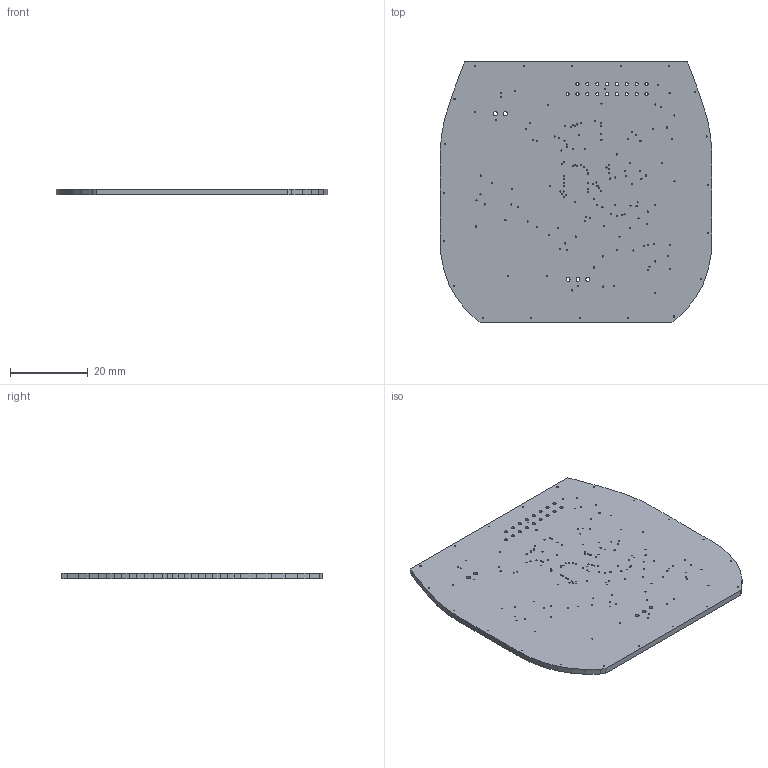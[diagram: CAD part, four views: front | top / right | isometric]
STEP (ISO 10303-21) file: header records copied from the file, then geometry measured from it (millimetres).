
FILE_DESCRIPTION(('KiCad electronic assembly'),'2;1');
FILE_NAME('Wheel-bare.step','2026-11-05T00:07:51',('Pcbnew'),('Kicad'), 'Open CASCADE STEP processor 7.9','KiCad to STEP converter','Unknown' );
FILE_SCHEMA(('AUTOMOTIVE_DESIGN { 1 0 10303 214 1 1 1 1 }'));
Length unit declared in the file: millimetre
Products named in the file (2): Wheel-bare 1; Wheel_PCB
Assembly tree (1 placements, depth 2):
  Wheel-bare 1
    Wheel_PCB
Bounding box: 70 x 67 x 1.51 mm (x, y, z)
Volume: 6679.8 mm3; surface area: 9550.8 mm2
Topology: 1 solids, 1 shells, 255 faces, 759 edges, 506 vertices
Faces by surface type: cylinder 189, plane 66
Full cylindrical faces by diameter (mm): 0.3 x167, 0.8 x17, 1 x3, 1.1 x2
Entity records: 9544 total; most frequent: DIRECTION 1651, CARTESIAN_POINT 1522, ORIENTED_EDGE 1518, EDGE_CURVE 759, AXIS2_PLACEMENT_3D 635, FACE_BOUND 633, EDGE_LOOP 633, VERTEX_POINT 506
